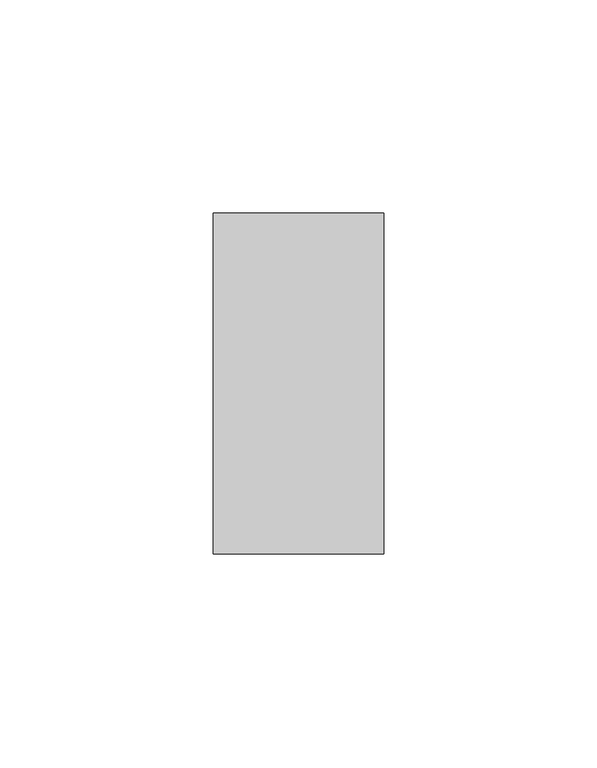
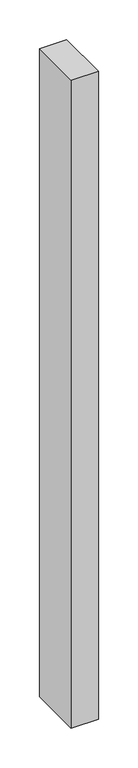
"""IFC4 building model written with IfcOpenShell, lengths in millimetres: member geometry, Obdélníková příčel : VERTI PANORAMA - vertikální."""

from ifc_helpers import new_model, si_unit, frame, origin, place, context, project, spatial, polyline, outline, extrude, source, transform, mapped, element, save


def member_2dd3d144(model_context):
    return source(origin(), model_context, "Body", "SweptSolid", [
        extrude(outline(polyline([(-40.0, 40.0), (0.0, 40.0), (0.0, -40.0), (-40.0, -40.0), (-40.0, 40.0)])), frame((0.0, 0.0, -1000.0), z_axis=(0.0, 0.0, 1.0), x_axis=(1.0, 0.0, 0.0)), (0.0, 0.0, 1.0), 1000.0),
    ])


if __name__ == "__main__":
    model = new_model("IFC4")
    model_context = context("Model", 3, world=origin())
    ifc_project = project(units=[si_unit("LENGTHUNIT", "METRE", prefix="MILLI")], contexts=[model_context])
    site = spatial("IfcSite", under=ifc_project)
    building = spatial("IfcBuilding", under=site)
    placement = place(None, origin())
    member_shape = member_2dd3d144(model_context)
    element("IfcMember", 1, ObjectType="Obdélníková příčel : VERTI PANORAMA - vertikální", at=placement, inside=building, context=model_context, shape_type="MappedRepresentation", body=[
        mapped(member_shape, transform((0.0, 0.0, 0.0), x_axis=(1.0, 0.0, 0.0), y_axis=(0.0, 1.0, 0.0), z_axis=(0.0, 0.0, 1.0))),
    ])
    save(model, "model.ifc")
